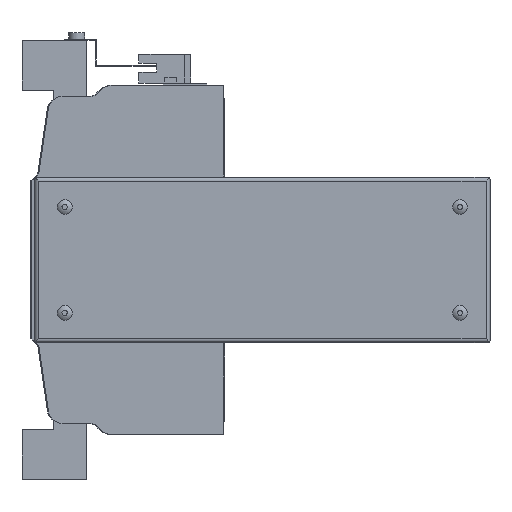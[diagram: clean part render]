
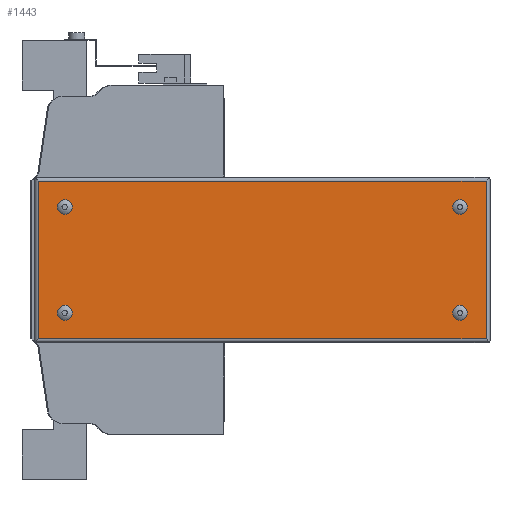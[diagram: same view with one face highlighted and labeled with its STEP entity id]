
A CAD part, left-side view. The second image highlights one B-rep face of the part: STEP entity #1443.
In plain terms, the highlighted planar face has unit normal (-1, 0, 0).
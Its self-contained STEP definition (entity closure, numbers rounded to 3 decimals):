
#1443 = ADVANCED_FACE( '', ( #3068, #3069, #3070, #3071, #3072 ), #3073, .F. );
#3068 = FACE_BOUND( '', #4895, .T. );
#3069 = FACE_BOUND( '', #4896, .T. );
#3070 = FACE_BOUND( '', #4897, .T. );
#3071 = FACE_BOUND( '', #4898, .T. );
#3072 = FACE_OUTER_BOUND( '', #4899, .T. );
#3073 = PLANE( '', #4900 );
#4895 = EDGE_LOOP( '', ( #8635 ) );
#4896 = EDGE_LOOP( '', ( #8636 ) );
#4897 = EDGE_LOOP( '', ( #8637 ) );
#4898 = EDGE_LOOP( '', ( #8638 ) );
#4899 = EDGE_LOOP( '', ( #8639, #8640, #8641, #8642 ) );
#4900 = AXIS2_PLACEMENT_3D( '', #8643, #8644, #8645 );
#8635 = ORIENTED_EDGE( '', *, *, #11994, .F. );
#8636 = ORIENTED_EDGE( '', *, *, #11995, .F. );
#8637 = ORIENTED_EDGE( '', *, *, #10878, .F. );
#8638 = ORIENTED_EDGE( '', *, *, #10721, .F. );
#8639 = ORIENTED_EDGE( '', *, *, #10657, .F. );
#8640 = ORIENTED_EDGE( '', *, *, #11249, .F. );
#8641 = ORIENTED_EDGE( '', *, *, #11996, .T. );
#8642 = ORIENTED_EDGE( '', *, *, #11997, .T. );
#8643 = CARTESIAN_POINT( '', ( -66., -131.95, 40.5 ) );
#8644 = DIRECTION( '', ( 1., 0., 0. ) );
#8645 = DIRECTION( '', ( 0., 0., -1. ) );
#10657 = EDGE_CURVE( '', #12722, #12724, #12725, .T. );
#10721 = EDGE_CURVE( '', #12835, #12835, #12836, .F. );
#10878 = EDGE_CURVE( '', #13107, #13107, #13108, .F. );
#11249 = EDGE_CURVE( '', #13723, #12722, #13725, .T. );
#11994 = EDGE_CURVE( '', #14801, #14801, #14802, .F. );
#11995 = EDGE_CURVE( '', #14803, #14803, #14804, .F. );
#11996 = EDGE_CURVE( '', #13723, #14805, #14806, .T. );
#11997 = EDGE_CURVE( '', #14805, #12724, #14807, .T. );
#12722 = VERTEX_POINT( '', #15715 );
#12724 = VERTEX_POINT( '', #15717 );
#12725 = LINE( '', #15718, #15719 );
#12835 = VERTEX_POINT( '', #15868 );
#12836 = CIRCLE( '', #15869, 3.7 );
#13107 = VERTEX_POINT( '', #16244 );
#13108 = CIRCLE( '', #16245, 3.7 );
#13723 = VERTEX_POINT( '', #17086 );
#13725 = LINE( '', #17088, #17089 );
#14801 = VERTEX_POINT( '', #18629 );
#14802 = CIRCLE( '', #18630, 3.7 );
#14803 = VERTEX_POINT( '', #18631 );
#14804 = CIRCLE( '', #18632, 3.7 );
#14805 = VERTEX_POINT( '', #18633 );
#14806 = LINE( '', #18634, #18635 );
#14807 = LINE( '', #18636, #18637 );
#15715 = CARTESIAN_POINT( '', ( -66., 93.05, 39.5 ) );
#15717 = CARTESIAN_POINT( '', ( -66., -130.95, 39.5 ) );
#15718 = CARTESIAN_POINT( '', ( -66., 228., 39.5 ) );
#15719 = VECTOR( '', #19445, 1000. );
#15868 = CARTESIAN_POINT( '', ( -66., 80.05, -30.2 ) );
#15869 = AXIS2_PLACEMENT_3D( '', #19528, #19529, #19530 );
#16244 = CARTESIAN_POINT( '', ( -66., 80.05, 22.8 ) );
#16245 = AXIS2_PLACEMENT_3D( '', #19703, #19704, #19705 );
#17086 = CARTESIAN_POINT( '', ( -66., 93.05, -39.5 ) );
#17088 = CARTESIAN_POINT( '', ( -66., 93.05, -83. ) );
#17089 = VECTOR( '', #20127, 1000. );
#18629 = CARTESIAN_POINT( '', ( -66., -117.95, 22.8 ) );
#18630 = AXIS2_PLACEMENT_3D( '', #20860, #20861, #20862 );
#18631 = CARTESIAN_POINT( '', ( -66., -117.95, -30.2 ) );
#18632 = AXIS2_PLACEMENT_3D( '', #20863, #20864, #20865 );
#18633 = CARTESIAN_POINT( '', ( -66., -130.95, -39.5 ) );
#18634 = CARTESIAN_POINT( '', ( -66., 228., -39.5 ) );
#18635 = VECTOR( '', #20866, 1000. );
#18636 = CARTESIAN_POINT( '', ( -66., -130.95, -83. ) );
#18637 = VECTOR( '', #20867, 1000. );
#19445 = DIRECTION( '', ( 0., -1., 0. ) );
#19528 = CARTESIAN_POINT( '', ( -66., 80.05, -26.5 ) );
#19529 = DIRECTION( '', ( 1., 0., 0. ) );
#19530 = DIRECTION( '', ( 0., 0., -1. ) );
#19703 = CARTESIAN_POINT( '', ( -66., 80.05, 26.5 ) );
#19704 = DIRECTION( '', ( 1., 0., 0. ) );
#19705 = DIRECTION( '', ( 0., 0., -1. ) );
#20127 = DIRECTION( '', ( 0., 0., 1. ) );
#20860 = CARTESIAN_POINT( '', ( -66., -117.95, 26.5 ) );
#20861 = DIRECTION( '', ( 1., 0., 0. ) );
#20862 = DIRECTION( '', ( 0., 0., -1. ) );
#20863 = CARTESIAN_POINT( '', ( -66., -117.95, -26.5 ) );
#20864 = DIRECTION( '', ( 1., 0., 0. ) );
#20865 = DIRECTION( '', ( 0., 0., -1. ) );
#20866 = DIRECTION( '', ( 0., -1., 0. ) );
#20867 = DIRECTION( '', ( 0., 0., 1. ) );
